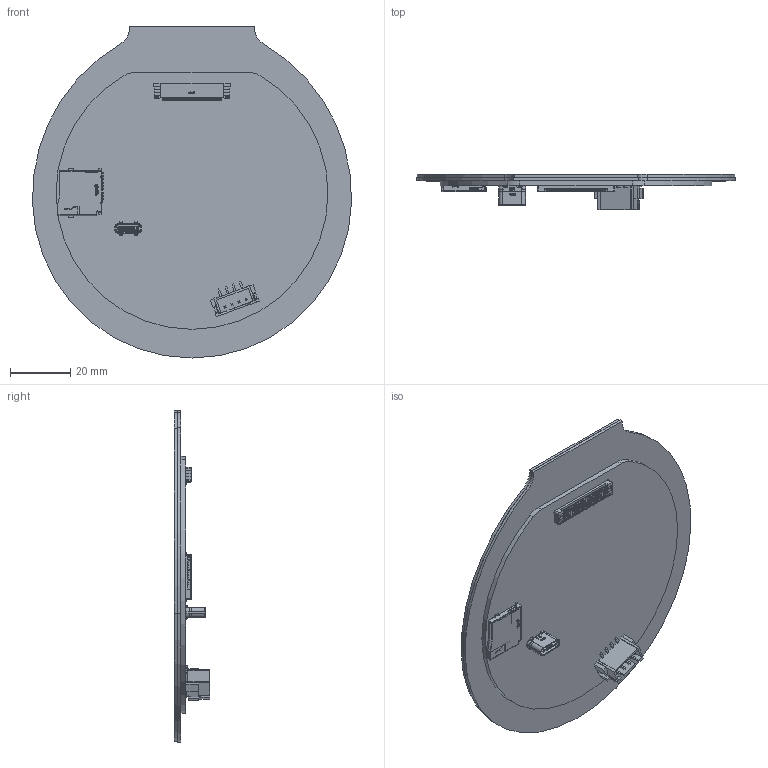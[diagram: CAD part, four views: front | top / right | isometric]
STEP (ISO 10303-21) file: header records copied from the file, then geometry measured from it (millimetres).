
FILE_DESCRIPTION(/* description */ (''),/* implementation_level */ '2;1');
FILE_NAME(/* name */ 'C:\Users\zhaoyunqi\Desktop\方案\终版\6.Inch-4.0-Circle\S40_Circle-STEP模型.stp',/* time_stamp */ '2025-12-27T14:44:56+08:00',/* author */ ('zhaoyunqi'),/* organization */ (''),/* preprocessor_version */ 'ST-DEVELOPER v18',/* originating_system */ 'Autodesk Inventor 2020',/* authorisation */ '');
FILE_SCHEMA (('AUTOMOTIVE_DESIGN { 1 0 10303 214 3 1 1 }'));
Products named in the file (10): 模型; 屏体; FPC-0.50-40P; FPC-SMD_40P-P0.50_HC-FPC-0.5-40P-CSH20~FPC-SMD_40P-P0.50_HC-FPC-0.5-4
0P-CSH20~GGM5; TF; SIM-SMD_TF110-AG1-004~SIM-SMD_TF110-AG1-004~GGM5; TYPE LT; USB-C-TH_HANBO_MC-118LD-H65~USB-C-TH_HANBO_MC-118LD-H65~bHkB; XH2.54-4P-LT; CONN-SMD_4P-P2.50_HX-2.54-4P-LT~CONN-SMD_4P-P2.50_HX-2.54-4P-LT~bHkB
Assembly tree (9 placements, depth 3):
  模型
    屏体
    FPC-0.50-40P
      FPC-SMD_40P-P0.50_HC-FPC-0.5-40P-CSH20~FPC-SMD_40P-P0.50_HC-FPC-0.5-4
0P-CSH20~GGM5
    TF
      SIM-SMD_TF110-AG1-004~SIM-SMD_TF110-AG1-004~GGM5
    TYPE LT
      USB-C-TH_HANBO_MC-118LD-H65~USB-C-TH_HANBO_MC-118LD-H65~bHkB
    XH2.54-4P-LT
      CONN-SMD_4P-P2.50_HX-2.54-4P-LT~CONN-SMD_4P-P2.50_HX-2.54-4P-LT~bHkB
Bounding box: 105.54 x 11.63 x 109.87 mm (x, y, z)
Volume: 30275.9 mm3; surface area: 71074.1 mm2
Topology: 35 solids, 35 shells, 3276 faces, 9297 edges, 6185 vertices
Faces by surface type: plane 2486, cylinder 458, bspline 306, cone 12, torus 10, sphere 4
Full cylindrical faces by diameter (mm): 0.5 x4, 0.8 x2
Entity records: 112409 total; most frequent: CARTESIAN_POINT 23988, ORIENTED_EDGE 18576, DIRECTION 16086, EDGE_CURVE 9288, LINE 7620, VECTOR 7620, VERTEX_POINT 6173, AXIS2_PLACEMENT_3D 4233
